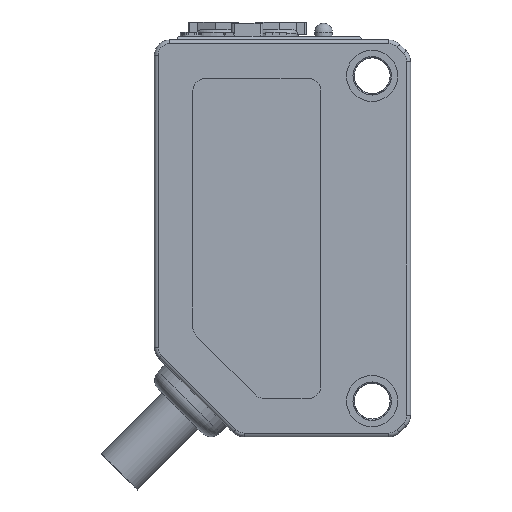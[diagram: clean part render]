
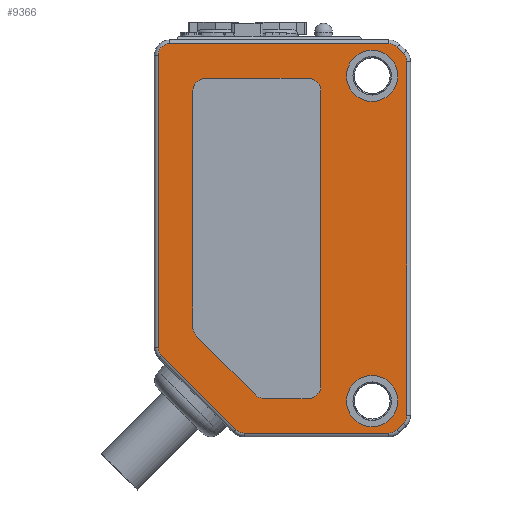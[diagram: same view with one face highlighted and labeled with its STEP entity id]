
A CAD part, front view. The second image highlights one B-rep face of the part: STEP entity #9366.
In plain terms, the highlighted planar face has unit normal (0, -1, 0) as drawn and (0, 0, -1) by its records, which use the part's own axes.
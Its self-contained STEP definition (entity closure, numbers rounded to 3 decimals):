
#670=DIRECTION('',(0.,-1.,0.));
#671=VECTOR('',#670,22.803);
#672=CARTESIAN_POINT('',(39.7,81.14,-45.5));
#673=LINE('',#672,#671);
#693=DIRECTION('',(1.,0.,0.));
#694=VECTOR('',#693,17.103);
#695=CARTESIAN_POINT('',(21.697,82.04,-45.5));
#696=LINE('',#695,#694);
#805=DIRECTION('',(0.,1.,0.));
#806=VECTOR('',#805,27.606);
#807=CARTESIAN_POINT('',(20.3,53.037,-45.5));
#808=LINE('',#807,#806);
#843=CARTESIAN_POINT('',(21.2,53.037,-45.5));
#844=DIRECTION('',(0.,0.,1.));
#845=DIRECTION('',(-1.,0.,0.));
#846=AXIS2_PLACEMENT_3D('',#843,#844,#845);
#848=DIRECTION('',(0.707,-0.707,0.));
#849=VECTOR('',#848,0.703);
#850=CARTESIAN_POINT('',(20.564,52.4,-45.5));
#851=LINE('',#850,#849);
#852=CARTESIAN_POINT('',(21.697,52.54,-45.5));
#853=DIRECTION('',(0.,0.,1.));
#854=DIRECTION('',(-0.707,-0.707,0.));
#855=AXIS2_PLACEMENT_3D('',#852,#853,#854);
#857=CARTESIAN_POINT('',(33.003,52.54,-45.5));
#858=DIRECTION('',(0.,0.,1.));
#859=DIRECTION('',(0.,-1.,0.));
#860=AXIS2_PLACEMENT_3D('',#857,#858,#859);
#862=DIRECTION('',(0.707,0.707,0.));
#863=VECTOR('',#862,8.198);
#864=CARTESIAN_POINT('',(33.639,51.903,-45.5));
#865=LINE('',#864,#863);
#866=CARTESIAN_POINT('',(38.8,58.337,-45.5));
#867=DIRECTION('',(0.,0.,1.));
#868=DIRECTION('',(0.707,-0.707,0.));
#869=AXIS2_PLACEMENT_3D('',#866,#867,#868);
#871=CARTESIAN_POINT('',(38.8,81.14,-45.5));
#872=DIRECTION('',(0.,0.,1.));
#873=DIRECTION('',(1.,0.,0.));
#874=AXIS2_PLACEMENT_3D('',#871,#872,#873);
#876=CARTESIAN_POINT('',(21.697,81.14,-45.5));
#877=DIRECTION('',(0.,0.,1.));
#878=DIRECTION('',(0.,1.,0.));
#879=AXIS2_PLACEMENT_3D('',#876,#877,#878);
#881=DIRECTION('',(-0.707,-0.707,0.));
#882=VECTOR('',#881,0.703);
#883=CARTESIAN_POINT('',(21.061,81.776,-45.5));
#884=LINE('',#883,#882);
#885=CARTESIAN_POINT('',(21.2,80.643,-45.5));
#886=DIRECTION('',(0.,0.,1.));
#887=DIRECTION('',(-0.707,0.707,0.));
#888=AXIS2_PLACEMENT_3D('',#885,#886,#887);
#890=CARTESIAN_POINT('',(28.,78.34,-45.5));
#891=DIRECTION('',(0.,0.,-1.));
#892=DIRECTION('',(-1.,0.,0.));
#893=AXIS2_PLACEMENT_3D('',#890,#891,#892);
#895=DIRECTION('',(1.,0.,0.));
#896=VECTOR('',#895,8.);
#897=CARTESIAN_POINT('',(28.,79.34,-45.5));
#898=LINE('',#897,#896);
#899=CARTESIAN_POINT('',(36.,78.34,-45.5));
#900=DIRECTION('',(0.,0.,-1.));
#901=DIRECTION('',(0.,1.,0.));
#902=AXIS2_PLACEMENT_3D('',#899,#900,#901);
#904=DIRECTION('',(0.,-1.,0.));
#905=VECTOR('',#904,18.419);
#906=CARTESIAN_POINT('',(37.,78.34,-45.5));
#907=LINE('',#906,#905);
#908=CARTESIAN_POINT('',(36.,59.921,-45.5));
#909=DIRECTION('',(0.,0.,-1.));
#910=DIRECTION('',(1.,0.,0.));
#911=AXIS2_PLACEMENT_3D('',#908,#909,#910);
#913=DIRECTION('',(-0.707,-0.707,0.));
#914=VECTOR('',#913,6.479);
#915=CARTESIAN_POINT('',(36.707,59.214,-45.5));
#916=LINE('',#915,#914);
#917=CARTESIAN_POINT('',(31.419,55.34,-45.5));
#918=DIRECTION('',(0.,0.,-1.));
#919=DIRECTION('',(0.707,-0.707,0.));
#920=AXIS2_PLACEMENT_3D('',#917,#918,#919);
#922=DIRECTION('',(-1.,0.,0.));
#923=VECTOR('',#922,3.419);
#924=CARTESIAN_POINT('',(31.419,54.34,-45.5));
#925=LINE('',#924,#923);
#926=CARTESIAN_POINT('',(28.,55.34,-45.5));
#927=DIRECTION('',(0.,0.,-1.));
#928=DIRECTION('',(0.,-1.,0.));
#929=AXIS2_PLACEMENT_3D('',#926,#927,#928);
#931=DIRECTION('',(0.,1.,0.));
#932=VECTOR('',#931,23.);
#933=CARTESIAN_POINT('',(27.,55.34,-45.5));
#934=LINE('',#933,#932);
#935=CARTESIAN_POINT('',(23.,79.54,-45.5));
#936=DIRECTION('',(0.,0.,-1.));
#937=DIRECTION('',(-1.,0.,0.));
#938=AXIS2_PLACEMENT_3D('',#935,#936,#937);
#940=CARTESIAN_POINT('',(23.,79.54,-45.5));
#941=DIRECTION('',(0.,0.,-1.));
#942=DIRECTION('',(1.,0.,0.));
#943=AXIS2_PLACEMENT_3D('',#940,#941,#942);
#945=CARTESIAN_POINT('',(23.,54.14,-45.5));
#946=DIRECTION('',(0.,0.,-1.));
#947=DIRECTION('',(-1.,0.,0.));
#948=AXIS2_PLACEMENT_3D('',#945,#946,#947);
#950=CARTESIAN_POINT('',(23.,54.14,-45.5));
#951=DIRECTION('',(0.,0.,-1.));
#952=DIRECTION('',(1.,0.,0.));
#953=AXIS2_PLACEMENT_3D('',#950,#951,#952);
#959=DIRECTION('',(-1.,0.,0.));
#960=VECTOR('',#959,11.306);
#961=CARTESIAN_POINT('',(33.003,51.64,-45.5));
#962=LINE('',#961,#960);
#7324=CARTESIAN_POINT('',(39.436,57.7,-45.5));
#7325=VERTEX_POINT('',#7324);
#7326=CARTESIAN_POINT('',(33.639,51.903,-45.5));
#7327=VERTEX_POINT('',#7326);
#7328=CARTESIAN_POINT('',(39.7,58.337,-45.5));
#7329=VERTEX_POINT('',#7328);
#7330=CARTESIAN_POINT('',(39.7,81.14,-45.5));
#7331=VERTEX_POINT('',#7330);
#7332=CARTESIAN_POINT('',(38.8,82.04,-45.5));
#7333=VERTEX_POINT('',#7332);
#7334=CARTESIAN_POINT('',(21.697,82.04,-45.5));
#7335=VERTEX_POINT('',#7334);
#7338=CARTESIAN_POINT('',(21.061,81.776,-45.5));
#7339=VERTEX_POINT('',#7338);
#7380=CARTESIAN_POINT('',(21.697,51.64,-45.5));
#7381=VERTEX_POINT('',#7380);
#7382=CARTESIAN_POINT('',(33.003,51.64,-45.5));
#7383=VERTEX_POINT('',#7382);
#7384=CARTESIAN_POINT('',(21.061,51.903,-45.5));
#7385=VERTEX_POINT('',#7384);
#7388=CARTESIAN_POINT('',(20.3,53.037,-45.5));
#7389=CARTESIAN_POINT('',(20.3,80.643,-45.5));
#7390=VERTEX_POINT('',#7388);
#7391=VERTEX_POINT('',#7389);
#7392=CARTESIAN_POINT('',(20.564,52.4,-45.5));
#7393=VERTEX_POINT('',#7392);
#7394=CARTESIAN_POINT('',(20.564,81.279,-45.5));
#7395=VERTEX_POINT('',#7394);
#7396=CARTESIAN_POINT('',(27.,78.34,-45.5));
#7397=CARTESIAN_POINT('',(28.,79.34,-45.5));
#7398=VERTEX_POINT('',#7396);
#7399=VERTEX_POINT('',#7397);
#7400=CARTESIAN_POINT('',(36.,79.34,-45.5));
#7401=VERTEX_POINT('',#7400);
#7402=CARTESIAN_POINT('',(37.,78.34,-45.5));
#7403=VERTEX_POINT('',#7402);
#7404=CARTESIAN_POINT('',(37.,59.921,-45.5));
#7405=VERTEX_POINT('',#7404);
#7406=CARTESIAN_POINT('',(36.707,59.214,-45.5));
#7407=VERTEX_POINT('',#7406);
#7408=CARTESIAN_POINT('',(32.126,54.633,-45.5));
#7409=VERTEX_POINT('',#7408);
#7410=CARTESIAN_POINT('',(31.419,54.34,-45.5));
#7411=VERTEX_POINT('',#7410);
#7412=CARTESIAN_POINT('',(28.,54.34,-45.5));
#7413=VERTEX_POINT('',#7412);
#7414=CARTESIAN_POINT('',(27.,55.34,-45.5));
#7415=VERTEX_POINT('',#7414);
#8169=CARTESIAN_POINT('',(21.,79.54,-45.5));
#8170=CARTESIAN_POINT('',(25.,79.54,-45.5));
#8171=VERTEX_POINT('',#8169);
#8172=VERTEX_POINT('',#8170);
#8173=CARTESIAN_POINT('',(21.,54.14,-45.5));
#8174=CARTESIAN_POINT('',(25.,54.14,-45.5));
#8175=VERTEX_POINT('',#8173);
#8176=VERTEX_POINT('',#8174);
#9309=CARTESIAN_POINT('',(30.,66.84,-45.5));
#9310=DIRECTION('',(0.,0.,1.));
#9311=DIRECTION('',(1.,0.,0.));
#9312=AXIS2_PLACEMENT_3D('',#9309,#9310,#9311);
#9313=PLANE('',#9312);
#9314=ORIENTED_EDGE('',*,*,#9261,.F.);
#9315=ORIENTED_EDGE('',*,*,#9275,.T.);
#9316=ORIENTED_EDGE('',*,*,#9289,.T.);
#9317=ORIENTED_EDGE('',*,*,#9299,.T.);
#9319=ORIENTED_EDGE('',*,*,#9318,.F.);
#9321=ORIENTED_EDGE('',*,*,#9320,.T.);
#9322=ORIENTED_EDGE('',*,*,#8989,.T.);
#9323=ORIENTED_EDGE('',*,*,#9004,.T.);
#9324=ORIENTED_EDGE('',*,*,#9020,.F.);
#9325=ORIENTED_EDGE('',*,*,#9034,.T.);
#9326=ORIENTED_EDGE('',*,*,#9048,.F.);
#9327=ORIENTED_EDGE('',*,*,#9062,.T.);
#9328=ORIENTED_EDGE('',*,*,#9076,.T.);
#9329=ORIENTED_EDGE('',*,*,#9247,.T.);
#9330=EDGE_LOOP('',(#9314,#9315,#9316,#9317,#9319,#9321,#9322,#9323,#9324,#9325,
#9326,#9327,#9328,#9329));
#9331=FACE_OUTER_BOUND('',#9330,.F.);
#9333=ORIENTED_EDGE('',*,*,#9332,.T.);
#9335=ORIENTED_EDGE('',*,*,#9334,.T.);
#9337=ORIENTED_EDGE('',*,*,#9336,.T.);
#9339=ORIENTED_EDGE('',*,*,#9338,.T.);
#9341=ORIENTED_EDGE('',*,*,#9340,.T.);
#9343=ORIENTED_EDGE('',*,*,#9342,.T.);
#9345=ORIENTED_EDGE('',*,*,#9344,.T.);
#9347=ORIENTED_EDGE('',*,*,#9346,.T.);
#9349=ORIENTED_EDGE('',*,*,#9348,.T.);
#9351=ORIENTED_EDGE('',*,*,#9350,.T.);
#9352=EDGE_LOOP('',(#9333,#9335,#9337,#9339,#9341,#9343,#9345,#9347,#9349,
#9351));
#9353=FACE_BOUND('',#9352,.F.);
#9355=ORIENTED_EDGE('',*,*,#9354,.T.);
#9357=ORIENTED_EDGE('',*,*,#9356,.T.);
#9358=EDGE_LOOP('',(#9355,#9357));
#9359=FACE_BOUND('',#9358,.F.);
#9361=ORIENTED_EDGE('',*,*,#9360,.T.);
#9363=ORIENTED_EDGE('',*,*,#9362,.T.);
#9364=EDGE_LOOP('',(#9361,#9363));
#9365=FACE_BOUND('',#9364,.F.);
#847=CIRCLE('',#846,0.9);
#856=CIRCLE('',#855,0.9);
#861=CIRCLE('',#860,0.9);
#870=CIRCLE('',#869,0.9);
#875=CIRCLE('',#874,0.9);
#880=CIRCLE('',#879,0.9);
#889=CIRCLE('',#888,0.9);
#894=CIRCLE('',#893,1.);
#903=CIRCLE('',#902,1.);
#912=CIRCLE('',#911,1.);
#921=CIRCLE('',#920,1.);
#930=CIRCLE('',#929,1.);
#939=CIRCLE('',#938,2.);
#944=CIRCLE('',#943,2.);
#949=CIRCLE('',#948,2.);
#954=CIRCLE('',#953,2.);
#8989=EDGE_CURVE('',#7327,#7325,#865,.T.);
#9004=EDGE_CURVE('',#7325,#7329,#870,.T.);
#9020=EDGE_CURVE('',#7331,#7329,#673,.T.);
#9034=EDGE_CURVE('',#7331,#7333,#875,.T.);
#9048=EDGE_CURVE('',#7335,#7333,#696,.T.);
#9062=EDGE_CURVE('',#7335,#7339,#880,.T.);
#9076=EDGE_CURVE('',#7339,#7395,#884,.T.);
#9247=EDGE_CURVE('',#7395,#7391,#889,.T.);
#9261=EDGE_CURVE('',#7390,#7391,#808,.T.);
#9275=EDGE_CURVE('',#7390,#7393,#847,.T.);
#9289=EDGE_CURVE('',#7393,#7385,#851,.T.);
#9299=EDGE_CURVE('',#7385,#7381,#856,.T.);
#9318=EDGE_CURVE('',#7383,#7381,#962,.T.);
#9320=EDGE_CURVE('',#7383,#7327,#861,.T.);
#9332=EDGE_CURVE('',#7398,#7399,#894,.T.);
#9334=EDGE_CURVE('',#7399,#7401,#898,.T.);
#9336=EDGE_CURVE('',#7401,#7403,#903,.T.);
#9338=EDGE_CURVE('',#7403,#7405,#907,.T.);
#9340=EDGE_CURVE('',#7405,#7407,#912,.T.);
#9342=EDGE_CURVE('',#7407,#7409,#916,.T.);
#9344=EDGE_CURVE('',#7409,#7411,#921,.T.);
#9346=EDGE_CURVE('',#7411,#7413,#925,.T.);
#9348=EDGE_CURVE('',#7413,#7415,#930,.T.);
#9350=EDGE_CURVE('',#7415,#7398,#934,.T.);
#9354=EDGE_CURVE('',#8171,#8172,#939,.T.);
#9356=EDGE_CURVE('',#8172,#8171,#944,.T.);
#9360=EDGE_CURVE('',#8175,#8176,#949,.T.);
#9362=EDGE_CURVE('',#8176,#8175,#954,.T.);
#9366=ADVANCED_FACE('',(#9331,#9353,#9359,#9365),#9313,.F.);
